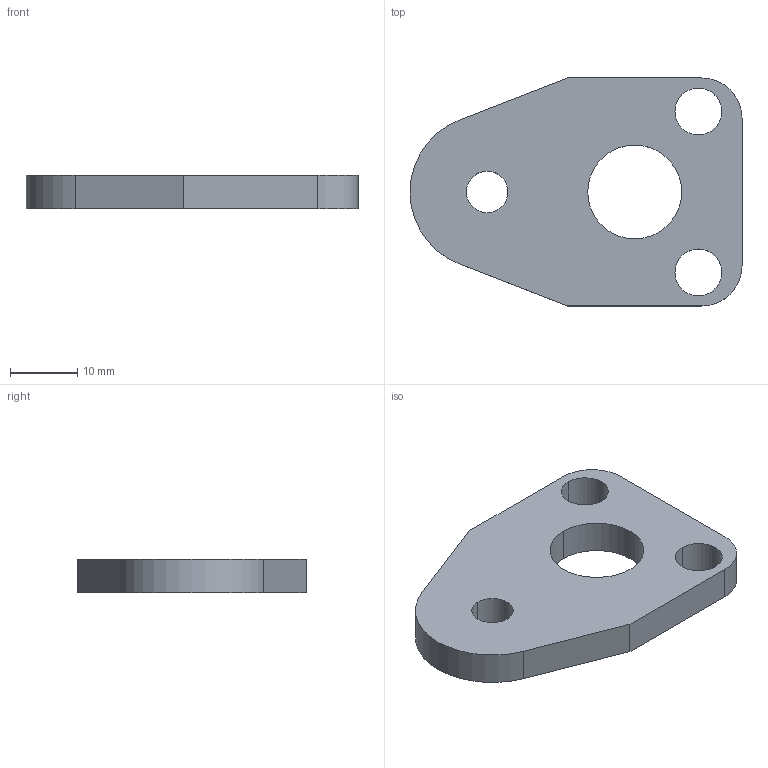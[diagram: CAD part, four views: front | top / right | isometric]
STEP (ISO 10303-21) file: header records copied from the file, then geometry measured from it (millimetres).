
FILE_DESCRIPTION(/* description */ (''),/* implementation_level */ '2;1');
FILE_NAME(/* name */ '3d_bpst13_03444_r00.stp',/* time_stamp */ '2011-01-10T14:17:08+09:00',/* author */ ('MISUMI'),/* organization */ (''),/* preprocessor_version */ 'ST-DEVELOPER v11',/* originating_system */ 'UGS - NX 5.0',/* authorisation */ '');
FILE_SCHEMA (('CONFIG_CONTROL_DESIGN'));
Length unit declared in the file: millimetre
Products named in the file (1): 3d_bpst13_03444_r00
Bounding box: 49.5 x 34 x 5 mm (x, y, z)
Volume: 5848.1 mm3; surface area: 3592.1 mm2
Topology: 1 solids, 1 shells, 18 faces, 48 edges, 32 vertices
Faces by surface type: cylinder 11, plane 7
Entity records: 676 total; most frequent: DIRECTION 108, CARTESIAN_POINT 99, ORIENTED_EDGE 96, EDGE_CURVE 48, AXIS2_PLACEMENT_3D 41, VERTEX_POINT 32, EDGE_LOOP 26, LINE 26
